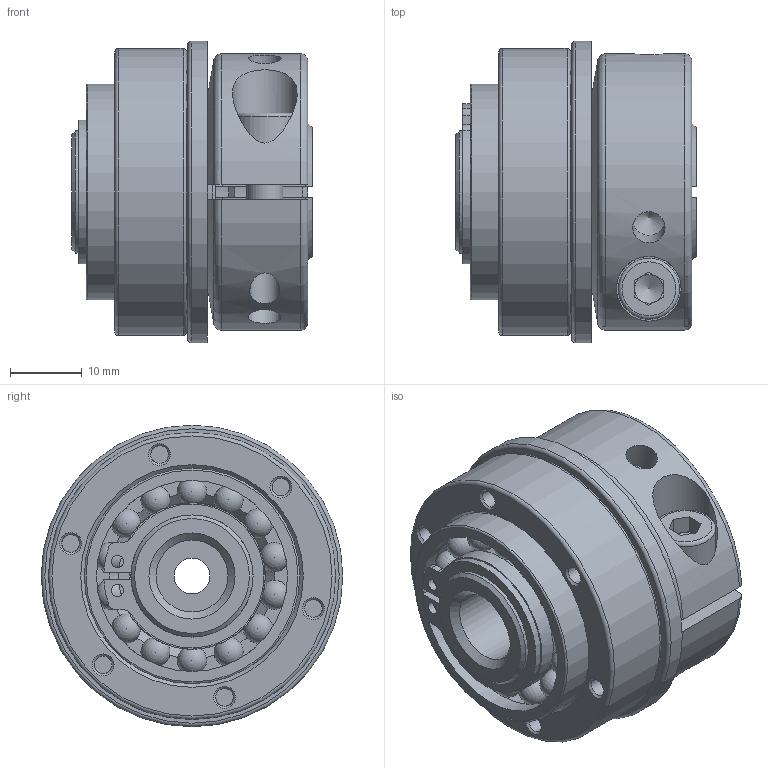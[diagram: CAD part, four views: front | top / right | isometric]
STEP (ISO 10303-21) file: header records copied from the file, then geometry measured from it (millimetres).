
FILE_DESCRIPTION(/* description */ ('Unknown'),/* implementation_level */ '2;1');
FILE_NAME(/* name */ 'SKB 1',/* time_stamp */ '2019-03-13T11:25:59+01:00',/* author */ ('Unknown'),/* organization */ ('Unknown'),/* preprocessor_version */ 'ST-DEVELOPER v16.7',/* originating_system */ 'DEX',/* authorisation */ $);
FILE_SCHEMA (('AUTOMOTIVE_DESIGN {1 0 10303 214 3 1 1}'));
Length unit declared in the file: millimetre
Products named in the file (2): SKB 1; SKB 1_0
Assembly tree (1 placements, depth 2):
  SKB 1
    SKB 1_0
Bounding box: 33.5 x 42 x 42 mm (x, y, z)
Volume: 30516.7 mm3; surface area: 14124.6 mm2
Topology: 1 solids, 3 shells, 241 faces, 716 edges, 460 vertices
Faces by surface type: plane 84, cylinder 67, torus 39, cone 37, sphere 14
Full cylindrical faces by diameter (mm): 1.7 x2, 2.459 x6, 3.3 x1, 4 x1, 4.2 x1, 4.5 x3, 5 x2, 5.5 x1, 8.5 x1, 9 x1, 10 x1, 16.2 x1, 17 x3, 20.4 x2, 25 x1, 26.6 x2, 30 x2, 36.5 x1, 36.886 x1, 39.8 x1, 40 x1, 42 x1
Entity records: 9212 total; most frequent: CARTESIAN_POINT 1748, DIRECTION 1190, ORIENTED_EDGE 1140, EDGE_CURVE 570, AXIS2_PLACEMENT_3D 518, VERTEX_POINT 398, FACE_BOUND 354, EDGE_LOOP 350
